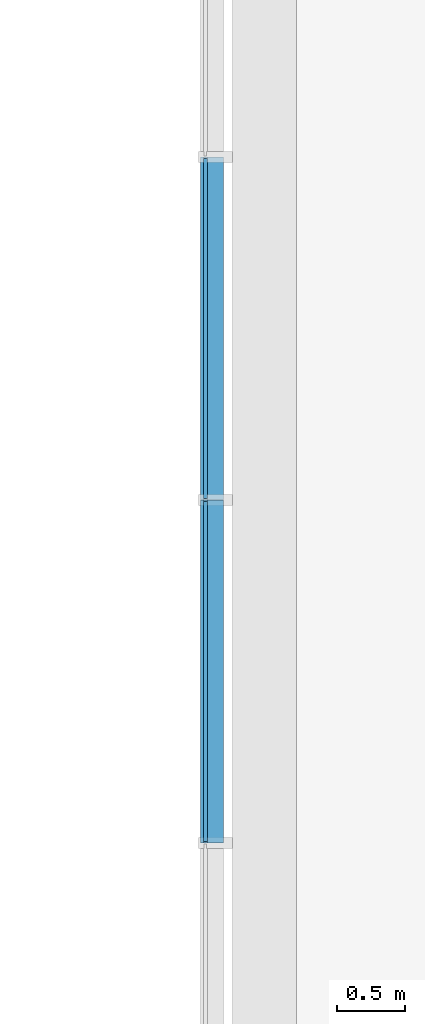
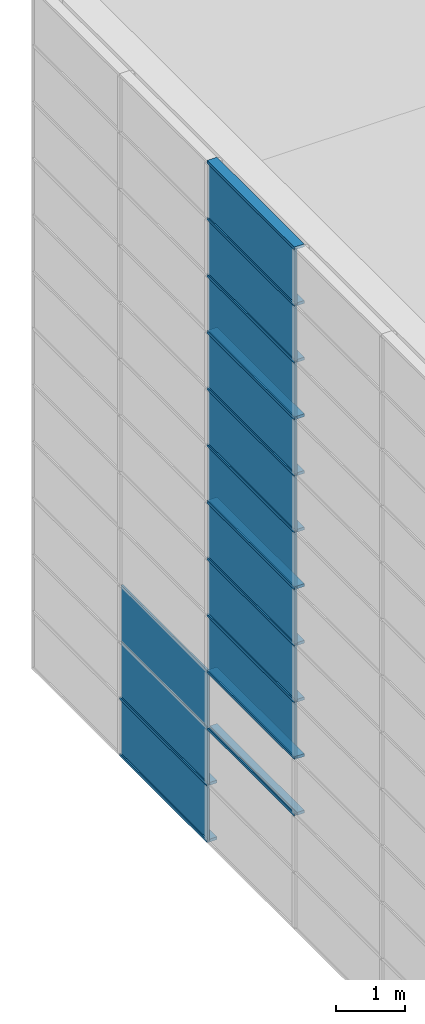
# One storey, part 36 of 105: 28 building element parts, 4 elements without a shape of their own.
"""IFC4 building model written with IfcOpenShell, lengths in millimetres."""

import ifcopenshell
import ifcopenshell.guid

model = None  # the IFC model being written
_history = None  # IfcOwnerHistory: only IFC2X3 demands one
_inside = {}  # id of a spatial element -> (the spatial element, [elements in it])
_under = {}  # id of a project, library or spatial element -> (it, [spatial elements below it])
_declared = {}  # id of a project -> (the project, [libraries it declares])
_typed = {}  # id of a type object -> (the type object, [elements of that type])
_made_of = {}  # id of a material, layer set ... -> (it, [elements and type objects made of it])


def new_model(schema):
    """Start an empty IFC model of exactly this schema.

    Asked for "IFC4X3", IfcOpenShell would pick the latest addendum, in which some entities
    have other attributes; the version numbers below select the first issue.
    IFC2X3 requires an IfcOwnerHistory on every rooted entity: one is made here for all.
    """
    global model, _history
    if schema == "IFC4X3":
        model = ifcopenshell.file(schema_version=(4, 3, 0, 0))
    else:
        model = ifcopenshell.file(schema=schema)
    _inside.clear()
    _under.clear()
    _declared.clear()
    _typed.clear()
    _made_of.clear()
    _history = None
    if model.schema == "IFC2X3":
        org = make("IfcOrganization", Name="unknown")
        user = make(
            "IfcPersonAndOrganization",
            ThePerson=make("IfcPerson", FamilyName="unknown"),
            TheOrganization=org,
        )
        app = make(
            "IfcApplication",
            ApplicationDeveloper=org,
            Version="unknown",
            ApplicationFullName="unknown",
            ApplicationIdentifier="unknown",
        )
        _history = make(
            "IfcOwnerHistory",
            OwningUser=user,
            OwningApplication=app,
            ChangeAction="ADDED",
            CreationDate=0,
        )
    return model


def make(cls, **values):
    """One entity of the class cls with the attributes given. An attribute that is None is left unset."""
    return model.create_entity(
        cls, **{name: value for name, value in values.items() if value is not None}
    )


def entity(cls, *values):
    """Any entity or typed value of the class cls, its attributes in the order of the schema. None: left unset."""
    e = model.create_entity(cls)
    for i, value in enumerate(values):
        if value is not None:
            e[i] = value
    return e


def rooted(cls, **values):
    """An entity with a GlobalId (a new one), such as an element, a storey or a relation."""
    return make(cls, GlobalId=ifcopenshell.guid.new(), OwnerHistory=_history, **values)


def si_unit(unit_type, name, prefix=None):
    """IfcSIUnit, for example si_unit("LENGTHUNIT", "METRE", prefix="MILLI")."""
    return make("IfcSIUnit", UnitType=unit_type, Prefix=prefix, Name=name)


def converted_unit(unit_type, name, factor, base, dimensions=None, offset=None):
    """IfcConversionBasedUnit, such as the inch: factor (a typed value) times the base unit."""
    return make(
        "IfcConversionBasedUnit"
        if offset is None
        else "IfcConversionBasedUnitWithOffset",
        ConversionOffset=offset,
        Dimensions=None
        if dimensions is None
        else entity("IfcDimensionalExponents", *dimensions),
        UnitType=unit_type,
        Name=name,
        ConversionFactor=make(
            "IfcMeasureWithUnit", ValueComponent=factor, UnitComponent=base
        ),
    )


def derived_unit(unit_type, elements):
    """IfcDerivedUnit: a product of units, each with its exponent."""
    return make(
        "IfcDerivedUnit",
        Elements=[
            make("IfcDerivedUnitElement", Unit=unit, Exponent=power)
            for unit, power in elements
        ],
        UnitType=unit_type,
    )


def assignment(units):
    """IfcUnitAssignment: the units of a project."""
    return None if units is None else make("IfcUnitAssignment", Units=units)


def point(xyz):
    """IfcCartesianPoint."""
    return None if xyz is None else make("IfcCartesianPoint", Coordinates=xyz)


def direction(xyz):
    """IfcDirection."""
    return None if xyz is None else make("IfcDirection", DirectionRatios=xyz)


def frame(location, z_axis=None, x_axis=None):
    """IfcAxis2Placement3D, a coordinate frame: its origin and axes. An axis left out is left unset."""
    return make(
        "IfcAxis2Placement3D",
        Location=point(location),
        Axis=direction(z_axis),
        RefDirection=direction(x_axis),
    )


def origin_with_axes():
    """The frame at (0, 0, 0) with the z axis (0, 0, 1) and the x axis (1, 0, 0) written out."""
    return frame((0.0, 0.0, 0.0), z_axis=(0.0, 0.0, 1.0), x_axis=(1.0, 0.0, 0.0))


def place(relative_to, where):
    """IfcLocalPlacement: puts the frame where relative to a parent placement (None: the world)."""
    return make(
        "IfcLocalPlacement", PlacementRelTo=relative_to, RelativePlacement=where
    )


def context(
    kind, dimensions, precision=None, world=None, true_north=None, identifier=None
):
    """IfcGeometricRepresentationContext, for example the 3D "Model" context."""
    return make(
        "IfcGeometricRepresentationContext",
        ContextIdentifier=identifier,
        ContextType=kind,
        CoordinateSpaceDimension=dimensions,
        Precision=precision,
        WorldCoordinateSystem=world,
        TrueNorth=true_north,
    )


def subcontext(parent, identifier, kind, view, scale=None):
    """IfcGeometricRepresentationSubContext, for example "Body" below "Model"."""
    return make(
        "IfcGeometricRepresentationSubContext",
        ContextIdentifier=identifier,
        ContextType=kind,
        ParentContext=parent,
        TargetScale=scale,
        TargetView=view,
    )


def project(units=None, contexts=None):
    """IfcProject with its units and contexts."""
    return rooted(
        "IfcProject",
        Name="project",
        RepresentationContexts=contexts,
        UnitsInContext=assignment(units),
    )


def spatial(cls, under=None, at=None, **own):
    """A site, building, storey or space (cls), placed at a placement, below another one or the project."""
    s = rooted(cls, ObjectPlacement=at, **own)
    if under is not None:
        _under.setdefault(under.id(), (under, []))[1].append(s)
    return s


def point_list(points):
    """IfcCartesianPointList2D or 3D."""
    cls = (
        "IfcCartesianPointList2D" if len(points[0]) == 2 else "IfcCartesianPointList3D"
    )
    return make(cls, CoordList=points)


def triangles(points, corners, closed=None, point_numbers=None):
    """IfcTriangulatedFaceSet: each triangle names its three corners, points numbered from 1."""
    return make(
        "IfcTriangulatedFaceSet",
        Coordinates=point_list(points),
        Closed=closed,
        CoordIndex=corners,
        PnIndex=point_numbers,
    )


def shape(context_of_items, identifier, shape_type, items):
    """IfcShapeRepresentation: the items that make up one representation, for example the "Body"."""
    return make(
        "IfcShapeRepresentation",
        ContextOfItems=context_of_items,
        RepresentationIdentifier=identifier,
        RepresentationType=shape_type,
        Items=items,
    )


def material(Name=None, Category=None):
    """IfcMaterial."""
    return make("IfcMaterial", Name=Name, Category=Category)


def made_of(thing, what):
    """Note that an element or type object is made of a material, layer set ...; save() writes the relation."""
    if what is not None:
        _made_of.setdefault(what.id(), (what, []))[1].append(thing)
    return thing


def element(
    cls,
    number,
    at=None,
    inside=None,
    cuts=None,
    type_object=None,
    material=None,
    context=None,
    identifier="Body",
    shape_type=None,
    held_by="IfcProductDefinitionShape",
    body=None,
    shapes=None,
    **own,
):
    """One element of the class cls, such as IfcWall. Its Tag is "e" and its number.

    at: its placement. inside: the storey or other place that contains it. cuts: it is an
    opening in that element (IfcRelVoidsElement). A single representation is given by context,
    identifier, shape_type and body (its items); several are given by shapes. held_by: the class
    of the entity that holds the representations. save() writes the other relations.
    """
    e = rooted(cls, Tag="e%d" % number, ObjectPlacement=at, **own)
    if body is not None:
        shapes = [shape(context, identifier, shape_type, body)]
    if shapes is not None:
        e.Representation = make(held_by, Representations=shapes)
    if inside is not None:
        _inside.setdefault(inside.id(), (inside, []))[1].append(e)
    if cuts is not None:
        rooted(
            "IfcRelVoidsElement", RelatingBuildingElement=cuts, RelatedOpeningElement=e
        )
    if type_object is not None:
        _typed.setdefault(type_object.id(), (type_object, []))[1].append(e)
    return made_of(e, material)


def aggregate(whole, parts):
    """IfcRelAggregates: a whole, such as a stair, and the parts it consists of."""
    return rooted("IfcRelAggregates", RelatingObject=whole, RelatedObjects=parts)


def save(model, path):
    """Write the relations noted so far, then the file.

    IfcRelAggregates (storeys below a building ...), IfcRelContainedInSpatialStructure (elements
    in a storey), IfcRelDefinesByType, IfcRelAssociatesMaterial and IfcRelDeclares: one each for
    every whole, place, type object, material and project.
    """
    for whole, parts in _under.values():
        aggregate(whole, parts)
    for where, things in _inside.values():
        rooted(
            "IfcRelContainedInSpatialStructure",
            RelatedElements=things,
            RelatingStructure=where,
        )
    for kind, things in _typed.values():
        rooted("IfcRelDefinesByType", RelatedObjects=things, RelatingType=kind)
    for what, things in _made_of.values():
        rooted("IfcRelAssociatesMaterial", RelatedObjects=things, RelatingMaterial=what)
    for by, libraries in _declared.values():
        rooted("IfcRelDeclares", RelatingContext=by, RelatedDefinitions=libraries)
    model.write(path)


model = new_model("IFC4")

# Units and contexts
model_context = context("Model", 3, precision=1e-05, world=origin_with_axes(), true_north=direction((0.0, 1.0)))
body_context = subcontext(model_context, "Body", "Model", "MODEL_VIEW")
ifc_project = project(units=[si_unit("LENGTHUNIT", "METRE", prefix="MILLI"), si_unit("AREAUNIT", "SQUARE_METRE"), si_unit("VOLUMEUNIT", "CUBIC_METRE"), converted_unit("PLANEANGLEUNIT", "DEGREE", entity("IfcLengthMeasure", 0.017453), si_unit("PLANEANGLEUNIT", "RADIAN"), dimensions=[0, 0, 0, 0, 0, 0, 0]), si_unit("SOLIDANGLEUNIT", "STERADIAN"), si_unit("MASSUNIT", "GRAM"), si_unit("TIMEUNIT", "SECOND"), si_unit("THERMODYNAMICTEMPERATUREUNIT", "DEGREE_CELSIUS"), si_unit("LUMINOUSINTENSITYUNIT", "LUMEN"), si_unit("POWERUNIT", "WATT"), derived_unit("THERMALTRANSMITTANCEUNIT", [(si_unit("POWERUNIT", "WATT"), 1), (si_unit("THERMODYNAMICTEMPERATUREUNIT", "KELVIN"), -1), (si_unit("AREAUNIT", "SQUARE_METRE"), -1)])], contexts=[model_context])

# Site, building, storey
site_placement = place(None, origin_with_axes())
site = spatial("IfcSite", under=ifc_project, at=site_placement, Name="Default Site", CompositionType="ELEMENT")
building_placement = place(site_placement, origin_with_axes())
building = spatial("IfcBuilding", under=site, at=building_placement, Name="Default Building", CompositionType="ELEMENT")
storey_placement = place(building_placement, origin_with_axes())
storey = spatial("IfcBuildingStorey", under=building, at=storey_placement, Name="OG - Story", CompositionType="ELEMENT", Elevation=0.0)

# Curtain wall, building element parts
curtain_wall_1_placement = place(storey_placement, origin_with_axes())
curtain_wall_1 = element("IfcCurtainWall", 1, at=curtain_wall_1_placement, inside=storey, Name="Fassade-003", PredefinedType="NOTDEFINED")
ifc_material_1 = material(Name="Normalglas")
building_element_part_1_placement = place(curtain_wall_1_placement, frame((31551.391327, -51326.104944, 0.0), z_axis=(0.0, 0.0, 1.0), x_axis=(1.0, 0.0, 0.0)))
building_element_part_1 = element("IfcBuildingElementPart", 2, at=building_element_part_1_placement, material=ifc_material_1, Name="Normalglas", PredefinedType="NOTDEFINED", context=body_context, shape_type="Tessellation", body=[
    triangles([(15.0, 44200.526, 995.0), (-14.999, 44200.526, 995.0), (-14.999, 41694.211, 995.0), (15.0, 41694.211, 995.0), (15.0, 44200.526, 5.0), (-14.999, 44200.526, 5.0), (-14.999, 41694.211, 5.0), (15.0, 41694.211, 5.0)], [[1, 2, 3], [1, 3, 4], [5, 6, 2], [5, 2, 1], [2, 6, 7], [2, 7, 3], [4, 3, 7], [4, 7, 8], [1, 4, 8], [1, 8, 5], [8, 7, 6], [8, 6, 5]], closed=False),
])
building_element_part_2_placement = place(curtain_wall_1_placement, frame((31551.391327, -51326.104944, 0.0), z_axis=(0.0, 0.0, 1.0), x_axis=(1.0, 0.0, 0.0)))
building_element_part_2 = element("IfcBuildingElementPart", 3, at=building_element_part_2_placement, material=ifc_material_1, Name="Normalglas", PredefinedType="NOTDEFINED", context=body_context, shape_type="Tessellation", body=[
    triangles([(15.0, 44200.526, 1995.0), (-14.999, 44200.526, 1995.0), (-14.999, 41694.211, 1995.0), (15.0, 41694.211, 1995.0), (15.0, 44200.526, 1005.0), (-14.999, 44200.526, 1005.0), (-14.999, 41694.211, 1005.0), (15.0, 41694.211, 1005.0)], [[1, 2, 3], [1, 3, 4], [5, 6, 2], [5, 2, 1], [2, 6, 7], [2, 7, 3], [4, 3, 7], [4, 7, 8], [1, 4, 8], [1, 8, 5], [8, 7, 6], [8, 6, 5]], closed=False),
])
building_element_part_3_placement = place(curtain_wall_1_placement, frame((31551.391327, -51326.104944, 0.0), z_axis=(0.0, 0.0, 1.0), x_axis=(1.0, 0.0, 0.0)))
building_element_part_3 = element("IfcBuildingElementPart", 4, at=building_element_part_3_placement, material=ifc_material_1, Name="Normalglas", PredefinedType="NOTDEFINED", context=body_context, shape_type="Tessellation", body=[
    triangles([(15.0, 44200.526, 2995.0), (-14.999, 44200.526, 2995.0), (-14.999, 41694.211, 2995.0), (15.0, 41694.211, 2995.0), (15.0, 44200.526, 2005.0), (-14.999, 44200.526, 2005.0), (-14.999, 41694.211, 2005.0), (15.0, 41694.211, 2005.0)], [[1, 2, 3], [1, 3, 4], [5, 6, 2], [5, 2, 1], [2, 6, 7], [2, 7, 3], [4, 3, 7], [4, 7, 8], [1, 4, 8], [1, 8, 5], [8, 7, 6], [8, 6, 5]], closed=False),
])
ifc_material_2 = material(Name="Blech")
building_element_part_4_placement = place(curtain_wall_1_placement, frame((31551.391327, -51326.104944, 0.0), z_axis=(0.0, 0.0, 1.0), x_axis=(1.0, 0.0, 0.0)))
building_element_part_4 = element("IfcBuildingElementPart", 5, at=building_element_part_4_placement, material=ifc_material_2, Name="Blech", PredefinedType="NOTDEFINED", context=body_context, shape_type="Tessellation", body=[
    triangles([(15.0, 44210.526, 25.0), (133.0, 44210.526, 25.0), (15.0, 44210.526, 5.0), (133.0, 44210.526, -24.999), (-14.999, 44210.526, 5.0), (-34.999, 44210.526, -24.999), (-34.999, 44210.526, 25.0), (-14.999, 44210.526, 25.0), (15.0, 41684.211, 5.0), (15.0, 41684.211, 25.0), (133.0, 41684.211, 25.0), (133.0, 41684.211, -24.999), (-34.999, 41684.211, -24.999), (-34.999, 41684.211, 25.0), (-14.999, 41684.211, 25.0), (-14.999, 41684.211, 5.0)], [[1, 2, 3], [3, 2, 4], [3, 4, 5], [5, 4, 6], [5, 6, 7], [5, 7, 8], [3, 9, 10], [3, 10, 1], [10, 11, 2], [10, 2, 1], [11, 12, 4], [11, 4, 2], [12, 13, 6], [12, 6, 4], [13, 14, 7], [13, 7, 6], [8, 7, 14], [8, 14, 15], [15, 16, 5], [15, 5, 8], [5, 16, 9], [5, 9, 3], [16, 9, 12], [16, 12, 13], [16, 13, 14], [16, 14, 15], [11, 12, 9], [11, 9, 10]], closed=False),
])
building_element_part_5_placement = place(curtain_wall_1_placement, frame((31551.391327, -51326.104944, 0.0), z_axis=(0.0, 0.0, 1.0), x_axis=(1.0, 0.0, 0.0)))
building_element_part_5 = element("IfcBuildingElementPart", 6, at=building_element_part_5_placement, material=ifc_material_2, Name="Blech", PredefinedType="NOTDEFINED", context=body_context, shape_type="Tessellation", body=[
    triangles([(-14.999, 44210.526, 1025.0), (-34.999, 44210.526, 1025.0), (-14.999, 44210.526, 1005.0), (-14.999, 44210.526, 995.0), (15.0, 44210.526, 1005.0), (133.0, 44210.526, 1025.0), (15.0, 44210.526, 1025.0), (-34.999, 44210.526, 975.0), (-14.999, 44210.526, 975.0), (15.0, 44210.526, 995.0), (15.0, 44210.526, 975.0), (133.0, 44210.526, 975.0), (15.0, 41684.211, 995.0), (-14.999, 41684.211, 995.0), (-14.999, 41684.211, 975.0), (-34.999, 41684.211, 975.0), (-34.999, 41684.211, 1025.0), (-14.999, 41684.211, 1025.0), (-14.999, 41684.211, 1005.0), (15.0, 41684.211, 1005.0), (15.0, 41684.211, 1025.0), (133.0, 41684.211, 1025.0), (133.0, 41684.211, 975.0), (15.0, 41684.211, 975.0)], [[1, 2, 3], [3, 2, 4], [3, 4, 5], [5, 4, 6], [5, 6, 7], [8, 9, 4], [8, 4, 2], [6, 4, 10], [6, 10, 11], [6, 11, 12], [10, 13, 14], [10, 14, 4], [4, 14, 15], [4, 15, 9], [15, 16, 8], [15, 8, 9], [8, 16, 17], [8, 17, 2], [18, 1, 2], [18, 2, 17], [1, 18, 19], [1, 19, 3], [5, 3, 19], [5, 19, 20], [7, 5, 20], [7, 20, 21], [7, 21, 22], [7, 22, 6], [6, 22, 23], [6, 23, 12], [11, 12, 23], [11, 23, 24], [11, 24, 13], [11, 13, 10], [21, 22, 20], [20, 22, 13], [20, 13, 19], [19, 13, 14], [19, 14, 17], [17, 14, 15], [17, 15, 16], [23, 24, 13], [23, 13, 22], [19, 17, 18]], closed=False),
])
building_element_part_6_placement = place(curtain_wall_1_placement, frame((31551.391327, -51326.104944, 0.0), z_axis=(0.0, 0.0, 1.0), x_axis=(1.0, 0.0, 0.0)))
building_element_part_6 = element("IfcBuildingElementPart", 7, at=building_element_part_6_placement, material=ifc_material_2, Name="Blech", PredefinedType="NOTDEFINED", context=body_context, shape_type="Tessellation", body=[
    triangles([(-14.999, 41684.211, 2025.0), (-34.999, 41684.211, 2025.0), (-14.999, 41684.211, 2005.0), (-14.999, 41684.211, 1995.0), (15.0, 41684.211, 2005.0), (133.0, 41684.211, 2025.0), (15.0, 41684.211, 2025.0), (-34.999, 41684.211, 1975.0), (-14.999, 41684.211, 1975.0), (15.0, 41684.211, 1995.0), (15.0, 41684.211, 1975.0), (133.0, 41684.211, 1975.0), (15.0, 39157.895, 1995.0), (-14.999, 39157.895, 1995.0), (-14.999, 39157.895, 1975.0), (-34.999, 39157.895, 1975.0), (-34.999, 39157.895, 2025.0), (-14.999, 39157.895, 2025.0), (-14.999, 39157.895, 2005.0), (15.0, 39157.895, 2005.0), (15.0, 39157.895, 2025.0), (133.0, 39157.895, 2025.0), (133.0, 39157.895, 1975.0), (15.0, 39157.895, 1975.0)], [[1, 2, 3], [3, 2, 4], [3, 4, 5], [5, 4, 6], [5, 6, 7], [8, 9, 4], [8, 4, 2], [6, 4, 10], [6, 10, 11], [6, 11, 12], [10, 13, 14], [10, 14, 4], [4, 14, 15], [4, 15, 9], [15, 16, 8], [15, 8, 9], [8, 16, 17], [8, 17, 2], [18, 1, 2], [18, 2, 17], [1, 18, 19], [1, 19, 3], [5, 3, 19], [5, 19, 20], [7, 5, 20], [7, 20, 21], [7, 21, 22], [7, 22, 6], [6, 22, 23], [6, 23, 12], [11, 12, 23], [11, 23, 24], [11, 24, 13], [11, 13, 10], [21, 22, 20], [20, 22, 13], [20, 13, 19], [19, 13, 14], [19, 14, 17], [17, 14, 15], [17, 15, 16], [23, 24, 13], [23, 13, 22], [19, 17, 18]], closed=False),
])
building_element_part_7_placement = place(curtain_wall_1_placement, frame((31551.391327, -51326.104944, 0.0), z_axis=(0.0, 0.0, 1.0), x_axis=(1.0, 0.0, 0.0)))
building_element_part_7 = element("IfcBuildingElementPart", 8, at=building_element_part_7_placement, material=ifc_material_2, Name="Blech", PredefinedType="NOTDEFINED", context=body_context, shape_type="Tessellation", body=[
    triangles([(-14.999, 41684.211, 2995.0), (15.0, 41684.211, 2995.0), (133.0, 41684.211, 3025.0), (-34.999, 41684.211, 3025.0), (-34.999, 41684.211, 2975.0), (-14.999, 41684.211, 2975.0), (15.0, 41684.211, 2975.0), (133.0, 41684.211, 2975.0), (15.0, 39157.895, 2995.0), (-14.999, 39157.895, 2995.0), (-14.999, 39157.895, 2975.0), (-34.999, 39157.895, 2975.0), (-34.999, 39157.895, 3025.0), (133.0, 39157.895, 3025.0), (133.0, 39157.895, 2975.0), (15.0, 39157.895, 2975.0)], [[1, 2, 3], [1, 3, 4], [1, 4, 5], [1, 5, 6], [7, 8, 3], [7, 3, 2], [1, 2, 9], [1, 9, 10], [11, 6, 1], [11, 1, 10], [6, 11, 12], [6, 12, 5], [13, 4, 5], [13, 5, 12], [14, 3, 4], [14, 4, 13], [15, 8, 3], [15, 3, 14], [16, 7, 8], [16, 8, 15], [2, 7, 16], [2, 16, 9], [10, 9, 14], [10, 14, 13], [10, 13, 12], [10, 12, 11], [16, 15, 14], [16, 14, 9]], closed=False),
])
aggregate(curtain_wall_1, [building_element_part_1, building_element_part_2, building_element_part_3, building_element_part_4, building_element_part_5, building_element_part_6, building_element_part_7])

curtain_wall_2_placement = place(storey_placement, origin_with_axes())
curtain_wall_2 = element("IfcCurtainWall", 9, at=curtain_wall_2_placement, inside=storey, Name="Fassade-003", PredefinedType="NOTDEFINED")
building_element_part_8_placement = place(curtain_wall_2_placement, frame((31551.391327, -51326.104944, 3000.0), z_axis=(0.0, 0.0, 1.0), x_axis=(1.0, 0.0, 0.0)))
building_element_part_8 = element("IfcBuildingElementPart", 10, at=building_element_part_8_placement, material=ifc_material_1, Name="Normalglas", PredefinedType="NOTDEFINED", context=body_context, shape_type="Tessellation", body=[
    triangles([(15.0, 41674.211, 995.0), (-14.999, 41674.211, 995.0), (-14.999, 39167.895, 995.0), (15.0, 39167.895, 995.0), (15.0, 41674.211, 5.0), (-14.999, 41674.211, 5.0), (-14.999, 39167.895, 5.0), (15.0, 39167.895, 5.0)], [[1, 2, 3], [1, 3, 4], [5, 6, 2], [5, 2, 1], [2, 6, 7], [2, 7, 3], [4, 3, 7], [4, 7, 8], [1, 4, 8], [1, 8, 5], [8, 7, 6], [8, 6, 5]], closed=False),
])
building_element_part_9_placement = place(curtain_wall_2_placement, frame((31551.391327, -51326.104944, 3000.0), z_axis=(0.0, 0.0, 1.0), x_axis=(1.0, 0.0, 0.0)))
building_element_part_9 = element("IfcBuildingElementPart", 11, at=building_element_part_9_placement, material=ifc_material_1, Name="Normalglas", PredefinedType="NOTDEFINED", context=body_context, shape_type="Tessellation", body=[
    triangles([(15.0, 41674.211, 1995.0), (-14.999, 41674.211, 1995.0), (-14.999, 39167.895, 1995.0), (15.0, 39167.895, 1995.0), (15.0, 41674.211, 1005.0), (-14.999, 41674.211, 1005.0), (-14.999, 39167.895, 1005.0), (15.0, 39167.895, 1005.0)], [[1, 2, 3], [1, 3, 4], [5, 6, 2], [5, 2, 1], [2, 6, 7], [2, 7, 3], [4, 3, 7], [4, 7, 8], [1, 4, 8], [1, 8, 5], [8, 7, 6], [8, 6, 5]], closed=False),
])
building_element_part_10_placement = place(curtain_wall_2_placement, frame((31551.391327, -51326.104944, 3000.0), z_axis=(0.0, 0.0, 1.0), x_axis=(1.0, 0.0, 0.0)))
building_element_part_10 = element("IfcBuildingElementPart", 12, at=building_element_part_10_placement, material=ifc_material_1, Name="Normalglas", PredefinedType="NOTDEFINED", context=body_context, shape_type="Tessellation", body=[
    triangles([(15.0, 41674.211, 2995.0), (-14.999, 41674.211, 2995.0), (-14.999, 39167.895, 2995.0), (15.0, 39167.895, 2995.0), (15.0, 41674.211, 2005.0), (-14.999, 41674.211, 2005.0), (-14.999, 39167.895, 2005.0), (15.0, 39167.895, 2005.0)], [[1, 2, 3], [1, 3, 4], [5, 6, 2], [5, 2, 1], [2, 6, 7], [2, 7, 3], [4, 3, 7], [4, 7, 8], [1, 4, 8], [1, 8, 5], [8, 7, 6], [8, 6, 5]], closed=False),
])
building_element_part_11_placement = place(curtain_wall_2_placement, frame((31551.391327, -51326.104944, 3000.0), z_axis=(0.0, 0.0, 1.0), x_axis=(1.0, 0.0, 0.0)))
building_element_part_11 = element("IfcBuildingElementPart", 13, at=building_element_part_11_placement, material=ifc_material_2, Name="Blech", PredefinedType="NOTDEFINED", context=body_context, shape_type="Tessellation", body=[
    triangles([(15.0, 41684.211, 25.0), (133.0, 41684.211, 25.0), (15.0, 41684.211, 5.0), (133.0, 41684.211, -24.999), (-14.999, 41684.211, 5.0), (-34.999, 41684.211, -24.999), (-34.999, 41684.211, 25.0), (-14.999, 41684.211, 25.0), (15.0, 39157.895, 5.0), (15.0, 39157.895, 25.0), (133.0, 39157.895, 25.0), (133.0, 39157.895, -24.999), (-34.999, 39157.895, -24.999), (-34.999, 39157.895, 25.0), (-14.999, 39157.895, 25.0), (-14.999, 39157.895, 5.0)], [[1, 2, 3], [3, 2, 4], [3, 4, 5], [5, 4, 6], [5, 6, 7], [5, 7, 8], [3, 9, 10], [3, 10, 1], [10, 11, 2], [10, 2, 1], [11, 12, 4], [11, 4, 2], [12, 13, 6], [12, 6, 4], [13, 14, 7], [13, 7, 6], [8, 7, 14], [8, 14, 15], [15, 16, 5], [15, 5, 8], [5, 16, 9], [5, 9, 3], [16, 9, 12], [16, 12, 13], [16, 13, 14], [16, 14, 15], [11, 12, 9], [11, 9, 10]], closed=False),
])
building_element_part_12_placement = place(curtain_wall_2_placement, frame((31551.391327, -51326.104944, 3000.0), z_axis=(0.0, 0.0, 1.0), x_axis=(1.0, 0.0, 0.0)))
building_element_part_12 = element("IfcBuildingElementPart", 14, at=building_element_part_12_placement, material=ifc_material_2, Name="Blech", PredefinedType="NOTDEFINED", context=body_context, shape_type="Tessellation", body=[
    triangles([(-14.999, 41684.211, 1025.0), (-34.999, 41684.211, 1025.0), (-14.999, 41684.211, 1005.0), (-14.999, 41684.211, 995.0), (15.0, 41684.211, 1005.0), (133.0, 41684.211, 1025.0), (15.0, 41684.211, 1025.0), (-34.999, 41684.211, 975.0), (-14.999, 41684.211, 975.0), (15.0, 41684.211, 995.0), (15.0, 41684.211, 975.0), (133.0, 41684.211, 975.0), (15.0, 39157.895, 995.0), (-14.999, 39157.895, 995.0), (-14.999, 39157.895, 975.0), (-34.999, 39157.895, 975.0), (-34.999, 39157.895, 1025.0), (-14.999, 39157.895, 1025.0), (-14.999, 39157.895, 1005.0), (15.0, 39157.895, 1005.0), (15.0, 39157.895, 1025.0), (133.0, 39157.895, 1025.0), (133.0, 39157.895, 975.0), (15.0, 39157.895, 975.0)], [[1, 2, 3], [3, 2, 4], [3, 4, 5], [5, 4, 6], [5, 6, 7], [8, 9, 4], [8, 4, 2], [6, 4, 10], [6, 10, 11], [6, 11, 12], [10, 13, 14], [10, 14, 4], [4, 14, 15], [4, 15, 9], [15, 16, 8], [15, 8, 9], [8, 16, 17], [8, 17, 2], [18, 1, 2], [18, 2, 17], [1, 18, 19], [1, 19, 3], [5, 3, 19], [5, 19, 20], [7, 5, 20], [7, 20, 21], [7, 21, 22], [7, 22, 6], [6, 22, 23], [6, 23, 12], [11, 12, 23], [11, 23, 24], [11, 24, 13], [11, 13, 10], [21, 22, 20], [20, 22, 13], [20, 13, 19], [19, 13, 14], [19, 14, 17], [17, 14, 15], [17, 15, 16], [23, 24, 13], [23, 13, 22], [19, 17, 18]], closed=False),
])
building_element_part_13_placement = place(curtain_wall_2_placement, frame((31551.391327, -51326.104944, 3000.0), z_axis=(0.0, 0.0, 1.0), x_axis=(1.0, 0.0, 0.0)))
building_element_part_13 = element("IfcBuildingElementPart", 15, at=building_element_part_13_placement, material=ifc_material_2, Name="Blech", PredefinedType="NOTDEFINED", context=body_context, shape_type="Tessellation", body=[
    triangles([(-14.999, 41684.211, 2025.0), (-34.999, 41684.211, 2025.0), (-14.999, 41684.211, 2005.0), (-14.999, 41684.211, 1995.0), (15.0, 41684.211, 2005.0), (133.0, 41684.211, 2025.0), (15.0, 41684.211, 2025.0), (-34.999, 41684.211, 1975.0), (-14.999, 41684.211, 1975.0), (15.0, 41684.211, 1995.0), (15.0, 41684.211, 1975.0), (133.0, 41684.211, 1975.0), (15.0, 39157.895, 1995.0), (-14.999, 39157.895, 1995.0), (-14.999, 39157.895, 1975.0), (-34.999, 39157.895, 1975.0), (-34.999, 39157.895, 2025.0), (-14.999, 39157.895, 2025.0), (-14.999, 39157.895, 2005.0), (15.0, 39157.895, 2005.0), (15.0, 39157.895, 2025.0), (133.0, 39157.895, 2025.0), (133.0, 39157.895, 1975.0), (15.0, 39157.895, 1975.0)], [[1, 2, 3], [3, 2, 4], [3, 4, 5], [5, 4, 6], [5, 6, 7], [8, 9, 4], [8, 4, 2], [6, 4, 10], [6, 10, 11], [6, 11, 12], [10, 13, 14], [10, 14, 4], [4, 14, 15], [4, 15, 9], [15, 16, 8], [15, 8, 9], [8, 16, 17], [8, 17, 2], [18, 1, 2], [18, 2, 17], [1, 18, 19], [1, 19, 3], [5, 3, 19], [5, 19, 20], [7, 5, 20], [7, 20, 21], [7, 21, 22], [7, 22, 6], [6, 22, 23], [6, 23, 12], [11, 12, 23], [11, 23, 24], [11, 24, 13], [11, 13, 10], [21, 22, 20], [20, 22, 13], [20, 13, 19], [19, 13, 14], [19, 14, 17], [17, 14, 15], [17, 15, 16], [23, 24, 13], [23, 13, 22], [19, 17, 18]], closed=False),
])
building_element_part_14_placement = place(curtain_wall_2_placement, frame((31551.391327, -51326.104944, 3000.0), z_axis=(0.0, 0.0, 1.0), x_axis=(1.0, 0.0, 0.0)))
building_element_part_14 = element("IfcBuildingElementPart", 16, at=building_element_part_14_placement, material=ifc_material_2, Name="Blech", PredefinedType="NOTDEFINED", context=body_context, shape_type="Tessellation", body=[
    triangles([(-14.999, 41684.211, 2995.0), (15.0, 41684.211, 2995.0), (133.0, 41684.211, 3025.0), (-34.999, 41684.211, 3025.0), (-34.999, 41684.211, 2975.0), (-14.999, 41684.211, 2975.0), (15.0, 41684.211, 2975.0), (133.0, 41684.211, 2975.0), (15.0, 39157.895, 2995.0), (-14.999, 39157.895, 2995.0), (-14.999, 39157.895, 2975.0), (-34.999, 39157.895, 2975.0), (-34.999, 39157.895, 3025.0), (133.0, 39157.895, 3025.0), (133.0, 39157.895, 2975.0), (15.0, 39157.895, 2975.0)], [[1, 2, 3], [1, 3, 4], [1, 4, 5], [1, 5, 6], [7, 8, 3], [7, 3, 2], [1, 2, 9], [1, 9, 10], [11, 6, 1], [11, 1, 10], [6, 11, 12], [6, 12, 5], [13, 4, 5], [13, 5, 12], [14, 3, 4], [14, 4, 13], [15, 8, 3], [15, 3, 14], [16, 7, 8], [16, 8, 15], [2, 7, 16], [2, 16, 9], [10, 9, 14], [10, 14, 13], [10, 13, 12], [10, 12, 11], [16, 15, 14], [16, 14, 9]], closed=False),
])
aggregate(curtain_wall_2, [building_element_part_8, building_element_part_9, building_element_part_10, building_element_part_11, building_element_part_12, building_element_part_13, building_element_part_14])

curtain_wall_3_placement = place(storey_placement, origin_with_axes())
curtain_wall_3 = element("IfcCurtainWall", 17, at=curtain_wall_3_placement, inside=storey, Name="Fassade-003", PredefinedType="NOTDEFINED")
building_element_part_15_placement = place(curtain_wall_3_placement, frame((31551.391327, -51326.104944, 6000.0), z_axis=(0.0, 0.0, 1.0), x_axis=(1.0, 0.0, 0.0)))
building_element_part_15 = element("IfcBuildingElementPart", 18, at=building_element_part_15_placement, material=ifc_material_1, Name="Normalglas", PredefinedType="NOTDEFINED", context=body_context, shape_type="Tessellation", body=[
    triangles([(15.0, 41674.211, 995.0), (-14.999, 41674.211, 995.0), (-14.999, 39167.895, 995.0), (15.0, 39167.895, 995.0), (15.0, 41674.211, 5.0), (-14.999, 41674.211, 5.0), (-14.999, 39167.895, 5.0), (15.0, 39167.895, 5.0)], [[1, 2, 3], [1, 3, 4], [5, 6, 2], [5, 2, 1], [2, 6, 7], [2, 7, 3], [4, 3, 7], [4, 7, 8], [1, 4, 8], [1, 8, 5], [8, 7, 6], [8, 6, 5]], closed=False),
])
building_element_part_16_placement = place(curtain_wall_3_placement, frame((31551.391327, -51326.104944, 6000.0), z_axis=(0.0, 0.0, 1.0), x_axis=(1.0, 0.0, 0.0)))
building_element_part_16 = element("IfcBuildingElementPart", 19, at=building_element_part_16_placement, material=ifc_material_1, Name="Normalglas", PredefinedType="NOTDEFINED", context=body_context, shape_type="Tessellation", body=[
    triangles([(15.0, 41674.211, 1995.0), (-14.999, 41674.211, 1995.0), (-14.999, 39167.895, 1995.0), (15.0, 39167.895, 1995.0), (15.0, 41674.211, 1005.0), (-14.999, 41674.211, 1005.0), (-14.999, 39167.895, 1005.0), (15.0, 39167.895, 1005.0)], [[1, 2, 3], [1, 3, 4], [5, 6, 2], [5, 2, 1], [2, 6, 7], [2, 7, 3], [4, 3, 7], [4, 7, 8], [1, 4, 8], [1, 8, 5], [8, 7, 6], [8, 6, 5]], closed=False),
])
building_element_part_17_placement = place(curtain_wall_3_placement, frame((31551.391327, -51326.104944, 6000.0), z_axis=(0.0, 0.0, 1.0), x_axis=(1.0, 0.0, 0.0)))
building_element_part_17 = element("IfcBuildingElementPart", 20, at=building_element_part_17_placement, material=ifc_material_1, Name="Normalglas", PredefinedType="NOTDEFINED", context=body_context, shape_type="Tessellation", body=[
    triangles([(15.0, 41674.211, 2995.0), (-14.999, 41674.211, 2995.0), (-14.999, 39167.895, 2995.0), (15.0, 39167.895, 2995.0), (15.0, 41674.211, 2005.0), (-14.999, 41674.211, 2005.0), (-14.999, 39167.895, 2005.0), (15.0, 39167.895, 2005.0)], [[1, 2, 3], [1, 3, 4], [5, 6, 2], [5, 2, 1], [2, 6, 7], [2, 7, 3], [4, 3, 7], [4, 7, 8], [1, 4, 8], [1, 8, 5], [8, 7, 6], [8, 6, 5]], closed=False),
])
building_element_part_18_placement = place(curtain_wall_3_placement, frame((31551.391327, -51326.104944, 6000.0), z_axis=(0.0, 0.0, 1.0), x_axis=(1.0, 0.0, 0.0)))
building_element_part_18 = element("IfcBuildingElementPart", 21, at=building_element_part_18_placement, material=ifc_material_2, Name="Blech", PredefinedType="NOTDEFINED", context=body_context, shape_type="Tessellation", body=[
    triangles([(15.0, 41684.211, 25.0), (133.0, 41684.211, 25.0), (15.0, 41684.211, 5.0), (133.0, 41684.211, -24.999), (-14.999, 41684.211, 5.0), (-34.999, 41684.211, -24.999), (-34.999, 41684.211, 25.0), (-14.999, 41684.211, 25.0), (15.0, 39157.895, 5.0), (15.0, 39157.895, 25.0), (133.0, 39157.895, 25.0), (133.0, 39157.895, -24.999), (-34.999, 39157.895, -24.999), (-34.999, 39157.895, 25.0), (-14.999, 39157.895, 25.0), (-14.999, 39157.895, 5.0)], [[1, 2, 3], [3, 2, 4], [3, 4, 5], [5, 4, 6], [5, 6, 7], [5, 7, 8], [3, 9, 10], [3, 10, 1], [10, 11, 2], [10, 2, 1], [11, 12, 4], [11, 4, 2], [12, 13, 6], [12, 6, 4], [13, 14, 7], [13, 7, 6], [8, 7, 14], [8, 14, 15], [15, 16, 5], [15, 5, 8], [5, 16, 9], [5, 9, 3], [16, 9, 12], [16, 12, 13], [16, 13, 14], [16, 14, 15], [11, 12, 9], [11, 9, 10]], closed=False),
])
building_element_part_19_placement = place(curtain_wall_3_placement, frame((31551.391327, -51326.104944, 6000.0), z_axis=(0.0, 0.0, 1.0), x_axis=(1.0, 0.0, 0.0)))
building_element_part_19 = element("IfcBuildingElementPart", 22, at=building_element_part_19_placement, material=ifc_material_2, Name="Blech", PredefinedType="NOTDEFINED", context=body_context, shape_type="Tessellation", body=[
    triangles([(-14.999, 41684.211, 1025.0), (-34.999, 41684.211, 1025.0), (-14.999, 41684.211, 1005.0), (-14.999, 41684.211, 995.0), (15.0, 41684.211, 1005.0), (133.0, 41684.211, 1025.0), (15.0, 41684.211, 1025.0), (-34.999, 41684.211, 975.0), (-14.999, 41684.211, 975.0), (15.0, 41684.211, 995.0), (15.0, 41684.211, 975.0), (133.0, 41684.211, 975.0), (15.0, 39157.895, 995.0), (-14.999, 39157.895, 995.0), (-14.999, 39157.895, 975.0), (-34.999, 39157.895, 975.0), (-34.999, 39157.895, 1025.0), (-14.999, 39157.895, 1025.0), (-14.999, 39157.895, 1005.0), (15.0, 39157.895, 1005.0), (15.0, 39157.895, 1025.0), (133.0, 39157.895, 1025.0), (133.0, 39157.895, 975.0), (15.0, 39157.895, 975.0)], [[1, 2, 3], [3, 2, 4], [3, 4, 5], [5, 4, 6], [5, 6, 7], [8, 9, 4], [8, 4, 2], [6, 4, 10], [6, 10, 11], [6, 11, 12], [10, 13, 14], [10, 14, 4], [4, 14, 15], [4, 15, 9], [15, 16, 8], [15, 8, 9], [8, 16, 17], [8, 17, 2], [18, 1, 2], [18, 2, 17], [1, 18, 19], [1, 19, 3], [5, 3, 19], [5, 19, 20], [7, 5, 20], [7, 20, 21], [7, 21, 22], [7, 22, 6], [6, 22, 23], [6, 23, 12], [11, 12, 23], [11, 23, 24], [11, 24, 13], [11, 13, 10], [21, 22, 20], [20, 22, 13], [20, 13, 19], [19, 13, 14], [19, 14, 17], [17, 14, 15], [17, 15, 16], [23, 24, 13], [23, 13, 22], [19, 17, 18]], closed=False),
])
building_element_part_20_placement = place(curtain_wall_3_placement, frame((31551.391327, -51326.104944, 6000.0), z_axis=(0.0, 0.0, 1.0), x_axis=(1.0, 0.0, 0.0)))
building_element_part_20 = element("IfcBuildingElementPart", 23, at=building_element_part_20_placement, material=ifc_material_2, Name="Blech", PredefinedType="NOTDEFINED", context=body_context, shape_type="Tessellation", body=[
    triangles([(-14.999, 41684.211, 2025.0), (-34.999, 41684.211, 2025.0), (-14.999, 41684.211, 2005.0), (-14.999, 41684.211, 1995.0), (15.0, 41684.211, 2005.0), (133.0, 41684.211, 2025.0), (15.0, 41684.211, 2025.0), (-34.999, 41684.211, 1975.0), (-14.999, 41684.211, 1975.0), (15.0, 41684.211, 1995.0), (15.0, 41684.211, 1975.0), (133.0, 41684.211, 1975.0), (15.0, 39157.895, 1995.0), (-14.999, 39157.895, 1995.0), (-14.999, 39157.895, 1975.0), (-34.999, 39157.895, 1975.0), (-34.999, 39157.895, 2025.0), (-14.999, 39157.895, 2025.0), (-14.999, 39157.895, 2005.0), (15.0, 39157.895, 2005.0), (15.0, 39157.895, 2025.0), (133.0, 39157.895, 2025.0), (133.0, 39157.895, 1975.0), (15.0, 39157.895, 1975.0)], [[1, 2, 3], [3, 2, 4], [3, 4, 5], [5, 4, 6], [5, 6, 7], [8, 9, 4], [8, 4, 2], [6, 4, 10], [6, 10, 11], [6, 11, 12], [10, 13, 14], [10, 14, 4], [4, 14, 15], [4, 15, 9], [15, 16, 8], [15, 8, 9], [8, 16, 17], [8, 17, 2], [18, 1, 2], [18, 2, 17], [1, 18, 19], [1, 19, 3], [5, 3, 19], [5, 19, 20], [7, 5, 20], [7, 20, 21], [7, 21, 22], [7, 22, 6], [6, 22, 23], [6, 23, 12], [11, 12, 23], [11, 23, 24], [11, 24, 13], [11, 13, 10], [21, 22, 20], [20, 22, 13], [20, 13, 19], [19, 13, 14], [19, 14, 17], [17, 14, 15], [17, 15, 16], [23, 24, 13], [23, 13, 22], [19, 17, 18]], closed=False),
])
building_element_part_21_placement = place(curtain_wall_3_placement, frame((31551.391327, -51326.104944, 6000.0), z_axis=(0.0, 0.0, 1.0), x_axis=(1.0, 0.0, 0.0)))
building_element_part_21 = element("IfcBuildingElementPart", 24, at=building_element_part_21_placement, material=ifc_material_2, Name="Blech", PredefinedType="NOTDEFINED", context=body_context, shape_type="Tessellation", body=[
    triangles([(-14.999, 41684.211, 2995.0), (15.0, 41684.211, 2995.0), (133.0, 41684.211, 3025.0), (-34.999, 41684.211, 3025.0), (-34.999, 41684.211, 2975.0), (-14.999, 41684.211, 2975.0), (15.0, 41684.211, 2975.0), (133.0, 41684.211, 2975.0), (15.0, 39157.895, 2995.0), (-14.999, 39157.895, 2995.0), (-14.999, 39157.895, 2975.0), (-34.999, 39157.895, 2975.0), (-34.999, 39157.895, 3025.0), (133.0, 39157.895, 3025.0), (133.0, 39157.895, 2975.0), (15.0, 39157.895, 2975.0)], [[1, 2, 3], [1, 3, 4], [1, 4, 5], [1, 5, 6], [7, 8, 3], [7, 3, 2], [1, 2, 9], [1, 9, 10], [11, 6, 1], [11, 1, 10], [6, 11, 12], [6, 12, 5], [13, 4, 5], [13, 5, 12], [14, 3, 4], [14, 4, 13], [15, 8, 3], [15, 3, 14], [16, 7, 8], [16, 8, 15], [2, 7, 16], [2, 16, 9], [10, 9, 14], [10, 14, 13], [10, 13, 12], [10, 12, 11], [16, 15, 14], [16, 14, 9]], closed=False),
])
aggregate(curtain_wall_3, [building_element_part_15, building_element_part_16, building_element_part_17, building_element_part_18, building_element_part_19, building_element_part_20, building_element_part_21])

curtain_wall_4_placement = place(storey_placement, origin_with_axes())
curtain_wall_4 = element("IfcCurtainWall", 25, at=curtain_wall_4_placement, inside=storey, Name="Fassade-003", PredefinedType="NOTDEFINED")
building_element_part_22_placement = place(curtain_wall_4_placement, frame((31551.391327, -51326.104944, 9000.0), z_axis=(0.0, 0.0, 1.0), x_axis=(1.0, 0.0, 0.0)))
building_element_part_22 = element("IfcBuildingElementPart", 26, at=building_element_part_22_placement, material=ifc_material_1, Name="Normalglas", PredefinedType="NOTDEFINED", context=body_context, shape_type="Tessellation", body=[
    triangles([(15.0, 41674.211, 995.0), (-14.999, 41674.211, 995.0), (-14.999, 39167.895, 995.0), (15.0, 39167.895, 995.0), (15.0, 41674.211, 5.0), (-14.999, 41674.211, 5.0), (-14.999, 39167.895, 5.0), (15.0, 39167.895, 5.0)], [[1, 2, 3], [1, 3, 4], [5, 6, 2], [5, 2, 1], [2, 6, 7], [2, 7, 3], [4, 3, 7], [4, 7, 8], [1, 4, 8], [1, 8, 5], [8, 7, 6], [8, 6, 5]], closed=False),
])
building_element_part_23_placement = place(curtain_wall_4_placement, frame((31551.391327, -51326.104944, 9000.0), z_axis=(0.0, 0.0, 1.0), x_axis=(1.0, 0.0, 0.0)))
building_element_part_23 = element("IfcBuildingElementPart", 27, at=building_element_part_23_placement, material=ifc_material_1, Name="Normalglas", PredefinedType="NOTDEFINED", context=body_context, shape_type="Tessellation", body=[
    triangles([(15.0, 41674.211, 1995.0), (-14.999, 41674.211, 1995.0), (-14.999, 39167.895, 1995.0), (15.0, 39167.895, 1995.0), (15.0, 41674.211, 1005.0), (-14.999, 41674.211, 1005.0), (-14.999, 39167.895, 1005.0), (15.0, 39167.895, 1005.0)], [[1, 2, 3], [1, 3, 4], [5, 6, 2], [5, 2, 1], [2, 6, 7], [2, 7, 3], [4, 3, 7], [4, 7, 8], [1, 4, 8], [1, 8, 5], [8, 7, 6], [8, 6, 5]], closed=False),
])
building_element_part_24_placement = place(curtain_wall_4_placement, frame((31551.391327, -51326.104944, 9000.0), z_axis=(0.0, 0.0, 1.0), x_axis=(1.0, 0.0, 0.0)))
building_element_part_24 = element("IfcBuildingElementPart", 28, at=building_element_part_24_placement, material=ifc_material_1, Name="Normalglas", PredefinedType="NOTDEFINED", context=body_context, shape_type="Tessellation", body=[
    triangles([(15.0, 41674.211, 2995.0), (-14.999, 41674.211, 2995.0), (-14.999, 39167.895, 2995.0), (15.0, 39167.895, 2995.0), (15.0, 41674.211, 2005.0), (-14.999, 41674.211, 2005.0), (-14.999, 39167.895, 2005.0), (15.0, 39167.895, 2005.0)], [[1, 2, 3], [1, 3, 4], [5, 6, 2], [5, 2, 1], [2, 6, 7], [2, 7, 3], [4, 3, 7], [4, 7, 8], [1, 4, 8], [1, 8, 5], [8, 7, 6], [8, 6, 5]], closed=False),
])
building_element_part_25_placement = place(curtain_wall_4_placement, frame((31551.391327, -51326.104944, 9000.0), z_axis=(0.0, 0.0, 1.0), x_axis=(1.0, 0.0, 0.0)))
building_element_part_25 = element("IfcBuildingElementPart", 29, at=building_element_part_25_placement, material=ifc_material_2, Name="Blech", PredefinedType="NOTDEFINED", context=body_context, shape_type="Tessellation", body=[
    triangles([(15.0, 41684.211, 25.0), (133.0, 41684.211, 25.0), (15.0, 41684.211, 5.0), (133.0, 41684.211, -24.999), (-14.999, 41684.211, 5.0), (-34.999, 41684.211, -24.999), (-34.999, 41684.211, 25.0), (-14.999, 41684.211, 25.0), (15.0, 39157.895, 5.0), (15.0, 39157.895, 25.0), (133.0, 39157.895, 25.0), (133.0, 39157.895, -24.999), (-34.999, 39157.895, -24.999), (-34.999, 39157.895, 25.0), (-14.999, 39157.895, 25.0), (-14.999, 39157.895, 5.0)], [[1, 2, 3], [3, 2, 4], [3, 4, 5], [5, 4, 6], [5, 6, 7], [5, 7, 8], [3, 9, 10], [3, 10, 1], [10, 11, 2], [10, 2, 1], [11, 12, 4], [11, 4, 2], [12, 13, 6], [12, 6, 4], [13, 14, 7], [13, 7, 6], [8, 7, 14], [8, 14, 15], [15, 16, 5], [15, 5, 8], [5, 16, 9], [5, 9, 3], [16, 9, 12], [16, 12, 13], [16, 13, 14], [16, 14, 15], [11, 12, 9], [11, 9, 10]], closed=False),
])
building_element_part_26_placement = place(curtain_wall_4_placement, frame((31551.391327, -51326.104944, 9000.0), z_axis=(0.0, 0.0, 1.0), x_axis=(1.0, 0.0, 0.0)))
building_element_part_26 = element("IfcBuildingElementPart", 30, at=building_element_part_26_placement, material=ifc_material_2, Name="Blech", PredefinedType="NOTDEFINED", context=body_context, shape_type="Tessellation", body=[
    triangles([(-14.999, 41684.211, 1025.0), (-34.999, 41684.211, 1025.0), (-14.999, 41684.211, 1005.0), (-14.999, 41684.211, 995.0), (15.0, 41684.211, 1005.0), (133.0, 41684.211, 1025.0), (15.0, 41684.211, 1025.0), (-34.999, 41684.211, 975.0), (-14.999, 41684.211, 975.0), (15.0, 41684.211, 995.0), (15.0, 41684.211, 975.0), (133.0, 41684.211, 975.0), (15.0, 39157.895, 995.0), (-14.999, 39157.895, 995.0), (-14.999, 39157.895, 975.0), (-34.999, 39157.895, 975.0), (-34.999, 39157.895, 1025.0), (-14.999, 39157.895, 1025.0), (-14.999, 39157.895, 1005.0), (15.0, 39157.895, 1005.0), (15.0, 39157.895, 1025.0), (133.0, 39157.895, 1025.0), (133.0, 39157.895, 975.0), (15.0, 39157.895, 975.0)], [[1, 2, 3], [3, 2, 4], [3, 4, 5], [5, 4, 6], [5, 6, 7], [8, 9, 4], [8, 4, 2], [6, 4, 10], [6, 10, 11], [6, 11, 12], [10, 13, 14], [10, 14, 4], [4, 14, 15], [4, 15, 9], [15, 16, 8], [15, 8, 9], [8, 16, 17], [8, 17, 2], [18, 1, 2], [18, 2, 17], [1, 18, 19], [1, 19, 3], [5, 3, 19], [5, 19, 20], [7, 5, 20], [7, 20, 21], [7, 21, 22], [7, 22, 6], [6, 22, 23], [6, 23, 12], [11, 12, 23], [11, 23, 24], [11, 24, 13], [11, 13, 10], [21, 22, 20], [20, 22, 13], [20, 13, 19], [19, 13, 14], [19, 14, 17], [17, 14, 15], [17, 15, 16], [23, 24, 13], [23, 13, 22], [19, 17, 18]], closed=False),
])
building_element_part_27_placement = place(curtain_wall_4_placement, frame((31551.391327, -51326.104944, 9000.0), z_axis=(0.0, 0.0, 1.0), x_axis=(1.0, 0.0, 0.0)))
building_element_part_27 = element("IfcBuildingElementPart", 31, at=building_element_part_27_placement, material=ifc_material_2, Name="Blech", PredefinedType="NOTDEFINED", context=body_context, shape_type="Tessellation", body=[
    triangles([(-14.999, 41684.211, 2025.0), (-34.999, 41684.211, 2025.0), (-14.999, 41684.211, 2005.0), (-14.999, 41684.211, 1995.0), (15.0, 41684.211, 2005.0), (133.0, 41684.211, 2025.0), (15.0, 41684.211, 2025.0), (-34.999, 41684.211, 1975.0), (-14.999, 41684.211, 1975.0), (15.0, 41684.211, 1995.0), (15.0, 41684.211, 1975.0), (133.0, 41684.211, 1975.0), (15.0, 39157.895, 1995.0), (-14.999, 39157.895, 1995.0), (-14.999, 39157.895, 1975.0), (-34.999, 39157.895, 1975.0), (-34.999, 39157.895, 2025.0), (-14.999, 39157.895, 2025.0), (-14.999, 39157.895, 2005.0), (15.0, 39157.895, 2005.0), (15.0, 39157.895, 2025.0), (133.0, 39157.895, 2025.0), (133.0, 39157.895, 1975.0), (15.0, 39157.895, 1975.0)], [[1, 2, 3], [3, 2, 4], [3, 4, 5], [5, 4, 6], [5, 6, 7], [8, 9, 4], [8, 4, 2], [6, 4, 10], [6, 10, 11], [6, 11, 12], [10, 13, 14], [10, 14, 4], [4, 14, 15], [4, 15, 9], [15, 16, 8], [15, 8, 9], [8, 16, 17], [8, 17, 2], [18, 1, 2], [18, 2, 17], [1, 18, 19], [1, 19, 3], [5, 3, 19], [5, 19, 20], [7, 5, 20], [7, 20, 21], [7, 21, 22], [7, 22, 6], [6, 22, 23], [6, 23, 12], [11, 12, 23], [11, 23, 24], [11, 24, 13], [11, 13, 10], [21, 22, 20], [20, 22, 13], [20, 13, 19], [19, 13, 14], [19, 14, 17], [17, 14, 15], [17, 15, 16], [23, 24, 13], [23, 13, 22], [19, 17, 18]], closed=False),
])
building_element_part_28_placement = place(curtain_wall_4_placement, frame((31551.391327, -51326.104944, 9000.0), z_axis=(0.0, 0.0, 1.0), x_axis=(1.0, 0.0, 0.0)))
building_element_part_28 = element("IfcBuildingElementPart", 32, at=building_element_part_28_placement, material=ifc_material_2, Name="Blech", PredefinedType="NOTDEFINED", context=body_context, shape_type="Tessellation", body=[
    triangles([(-14.999, 41684.211, 2995.0), (15.0, 41684.211, 2995.0), (133.0, 41684.211, 3025.0), (-34.999, 41684.211, 3025.0), (-34.999, 41684.211, 2975.0), (-14.999, 41684.211, 2975.0), (15.0, 41684.211, 2975.0), (133.0, 41684.211, 2975.0), (15.0, 39157.895, 2995.0), (-14.999, 39157.895, 2995.0), (-14.999, 39157.895, 2975.0), (-34.999, 39157.895, 2975.0), (-34.999, 39157.895, 3025.0), (133.0, 39157.895, 3025.0), (133.0, 39157.895, 2975.0), (15.0, 39157.895, 2975.0)], [[1, 2, 3], [1, 3, 4], [1, 4, 5], [1, 5, 6], [7, 8, 3], [7, 3, 2], [1, 2, 9], [1, 9, 10], [11, 6, 1], [11, 1, 10], [6, 11, 12], [6, 12, 5], [13, 4, 5], [13, 5, 12], [14, 3, 4], [14, 4, 13], [15, 8, 3], [15, 3, 14], [16, 7, 8], [16, 8, 15], [2, 7, 16], [2, 16, 9], [10, 9, 14], [10, 14, 13], [10, 13, 12], [10, 12, 11], [16, 15, 14], [16, 14, 9]], closed=False),
])
aggregate(curtain_wall_4, [building_element_part_22, building_element_part_23, building_element_part_24, building_element_part_25, building_element_part_26, building_element_part_27, building_element_part_28])

save(model, "model.ifc")
